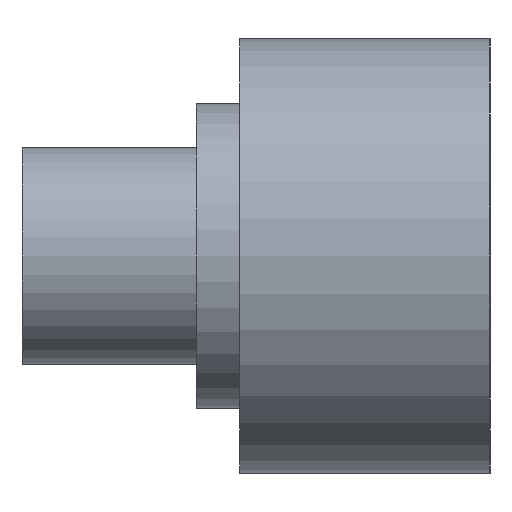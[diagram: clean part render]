
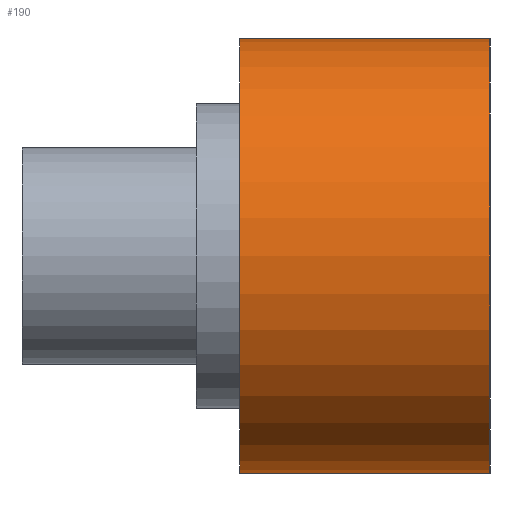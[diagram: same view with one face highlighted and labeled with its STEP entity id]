
A CAD part, left-side view. The second image highlights one B-rep face of the part: STEP entity #190.
In plain terms, the highlighted cylindrical face has radius 10 mm (diameter 20 mm), a partial arc.
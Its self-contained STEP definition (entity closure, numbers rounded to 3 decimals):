
#28=CIRCLE('',#214,10.);
#29=CIRCLE('',#215,10.);
#34=CYLINDRICAL_SURFACE('',#213,10.);
#45=FACE_OUTER_BOUND('',#61,.T.);
#61=EDGE_LOOP('',(#157,#158,#159,#160));
#71=LINE('',#309,#83);
#77=LINE('',#324,#89);
#83=VECTOR('',#253,10.);
#89=VECTOR('',#267,10.);
#99=VERTEX_POINT('',#306);
#100=VERTEX_POINT('',#308);
#104=VERTEX_POINT('',#320);
#105=VERTEX_POINT('',#322);
#117=EDGE_CURVE('',#99,#100,#71,.T.);
#125=EDGE_CURVE('',#104,#105,#77,.T.);
#126=EDGE_CURVE('',#99,#104,#28,.T.);
#127=EDGE_CURVE('',#100,#105,#29,.T.);
#157=ORIENTED_EDGE('',*,*,#126,.T.);
#158=ORIENTED_EDGE('',*,*,#125,.T.);
#159=ORIENTED_EDGE('',*,*,#127,.F.);
#160=ORIENTED_EDGE('',*,*,#117,.F.);
#190=ADVANCED_FACE('',(#45),#34,.T.);
#213=AXIS2_PLACEMENT_3D('',#325,#268,#269);
#214=AXIS2_PLACEMENT_3D('',#326,#270,#271);
#215=AXIS2_PLACEMENT_3D('',#327,#272,#273);
#253=DIRECTION('',(0.,1.,0.));
#267=DIRECTION('',(0.,1.,0.));
#268=DIRECTION('center_axis',(0.,1.,0.));
#269=DIRECTION('ref_axis',(0.,0.,-1.));
#270=DIRECTION('center_axis',(0.,1.,0.));
#271=DIRECTION('ref_axis',(0.,0.,-1.));
#272=DIRECTION('center_axis',(0.,1.,0.));
#273=DIRECTION('ref_axis',(0.,0.,-1.));
#306=CARTESIAN_POINT('',(-30.,0.,-10.));
#308=CARTESIAN_POINT('',(-30.,11.5,-10.));
#309=CARTESIAN_POINT('',(-30.,0.,-10.));
#320=CARTESIAN_POINT('',(-30.,0.,10.));
#322=CARTESIAN_POINT('',(-30.,11.5,10.));
#324=CARTESIAN_POINT('',(-30.,0.,10.));
#325=CARTESIAN_POINT('Origin',(-30.,0.,0.));
#326=CARTESIAN_POINT('Origin',(-30.,0.,0.));
#327=CARTESIAN_POINT('Origin',(-30.,11.5,0.));
